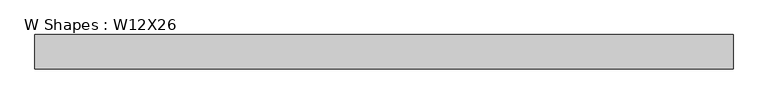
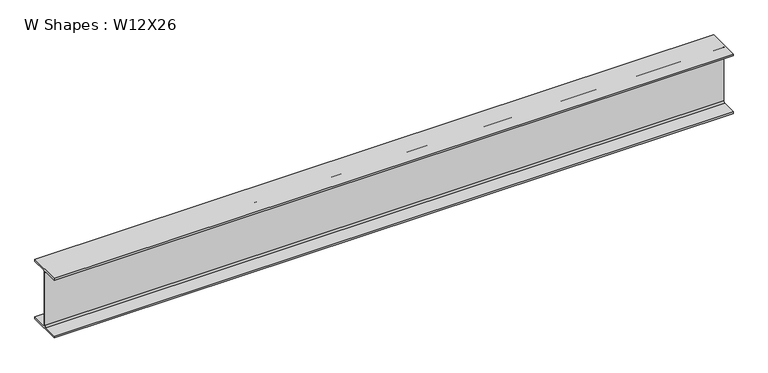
"""IFC4 building model written with IfcOpenShell, lengths in millimetres: beam geometry, W Shapes : W12X26."""

from ifc_helpers import new_model, si_unit, point, frame, frame_2d, origin, place, context, project, spatial, polyline, circle_curve, trimmed, segment, composite_curve, outline, extrude, source, transform, mapped, element, save


def w_shapes_w12x26_bd244048(model_context):
    return source(origin(), model_context, "Body", "SweptSolid", [
        extrude(outline(composite_curve([segment(polyline([(82.423, -145.288), (82.423, -154.94), (-82.423, -154.94), (-82.423, -145.288), (-10.541, -145.288)]), True, "CONTINUOUS"), segment(trimmed(circle_curve(frame_2d((-10.541, -137.668)), 7.62), [point((-10.541, -145.288))], [point((-2.921, -137.668))], True, "CARTESIAN"), True, "CONTINUOUS"), segment(polyline([(-2.921, -137.668), (-2.921, 137.668)]), True, "CONTINUOUS"), segment(trimmed(circle_curve(frame_2d((-10.541, 137.668)), 7.62), [point((-2.921, 137.668))], [point((-10.541, 145.288))], True, "CARTESIAN"), True, "CONTINUOUS"), segment(polyline([(-10.541, 145.288), (-82.423, 145.288), (-82.423, 154.94), (82.423, 154.94), (82.423, 145.288), (10.541, 145.288)]), True, "CONTINUOUS"), segment(trimmed(circle_curve(frame_2d((10.541, 137.668)), 7.62), [point((10.541, 145.288))], [point((2.921, 137.668))], True, "CARTESIAN"), True, "CONTINUOUS"), segment(polyline([(2.921, 137.668), (2.921, -137.668)]), True, "CONTINUOUS"), segment(trimmed(circle_curve(frame_2d((10.541, -137.668)), 7.62), [point((2.921, -137.668))], [point((10.541, -145.288))], True, "CARTESIAN"), True, "CONTINUOUS"), segment(polyline([(10.541, -145.288), (82.423, -145.288)]), True, "CONTINUOUS")], self_intersect=False)), frame((-1670.4999845, 0.0, 0.0), z_axis=(1.0, 0.0, 0.0), x_axis=(0.0, 1.0, 0.0)), (0.0, 0.0, 1.0), 3346.8257424),
    ])


if __name__ == "__main__":
    model = new_model("IFC4")
    model_context = context("Model", 3, world=origin())
    ifc_project = project(units=[si_unit("LENGTHUNIT", "METRE", prefix="MILLI")], contexts=[model_context])
    site = spatial("IfcSite", under=ifc_project)
    building = spatial("IfcBuilding", under=site)
    placement = place(None, origin())
    w_shapes_w12x26_shape = w_shapes_w12x26_bd244048(model_context)
    element("IfcBeam", 1, ObjectType="W Shapes : W12X26", at=placement, inside=building, context=model_context, shape_type="MappedRepresentation", body=[
        mapped(w_shapes_w12x26_shape, transform((0.0, 0.0, 0.0), x_axis=(1.0, 0.0, 0.0), y_axis=(0.0, 1.0, 0.0), z_axis=(0.0, 0.0, 1.0))),
    ])
    save(model, "model.ifc")
